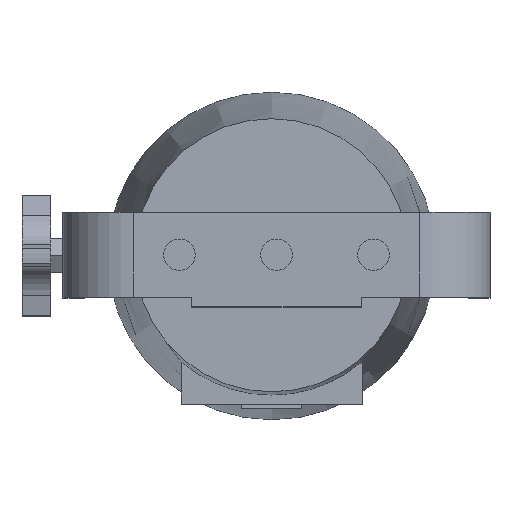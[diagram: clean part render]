
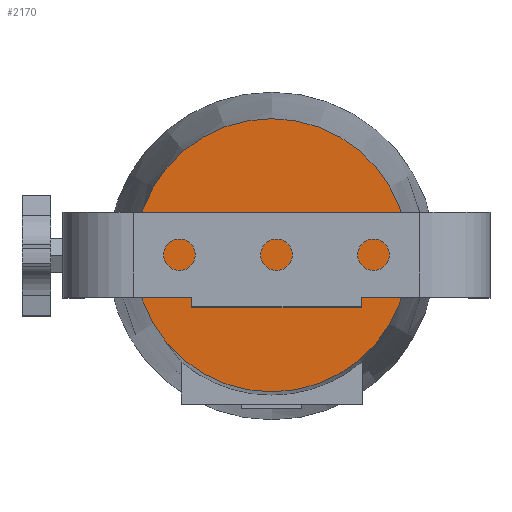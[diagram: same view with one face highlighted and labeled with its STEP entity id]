
A CAD part, top view. The second image highlights one B-rep face of the part: STEP entity #2170.
In plain terms, the highlighted planar face has unit normal (0, 0, 1).
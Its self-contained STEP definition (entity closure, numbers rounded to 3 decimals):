
#619=FACE_OUTER_BOUND('',#748,.T.);
#748=EDGE_LOOP('',(#1981,#1982));
#815=CIRCLE('',#2343,56.292);
#816=CIRCLE('',#2344,56.292);
#992=VERTEX_POINT('',#3486);
#993=VERTEX_POINT('',#3488);
#1274=EDGE_CURVE('',#992,#993,#815,.T.);
#1275=EDGE_CURVE('',#993,#992,#816,.T.);
#1981=ORIENTED_EDGE('',*,*,#1275,.F.);
#1982=ORIENTED_EDGE('',*,*,#1274,.F.);
#2058=PLANE('',#2401);
#2170=ADVANCED_FACE('',(#619),#2058,.T.);
#2343=AXIS2_PLACEMENT_3D('',#3489,#2855,#2856);
#2344=AXIS2_PLACEMENT_3D('',#3490,#2857,#2858);
#2401=AXIS2_PLACEMENT_3D('',#3839,#3022,#3023);
#2855=DIRECTION('center_axis',(0.,0.,-1.));
#2856=DIRECTION('ref_axis',(1.,0.,0.));
#2857=DIRECTION('center_axis',(0.,0.,-1.));
#2858=DIRECTION('ref_axis',(1.,0.,0.));
#3022=DIRECTION('center_axis',(0.,0.,1.));
#3023=DIRECTION('ref_axis',(1.,0.,0.));
#3486=CARTESIAN_POINT('',(0.,-56.292,11.5));
#3488=CARTESIAN_POINT('',(0.,56.292,11.5));
#3489=CARTESIAN_POINT('Origin',(0.,0.,11.5));
#3490=CARTESIAN_POINT('Origin',(0.,0.,11.5));
#3839=CARTESIAN_POINT('Origin',(0.,56.292,11.5));
